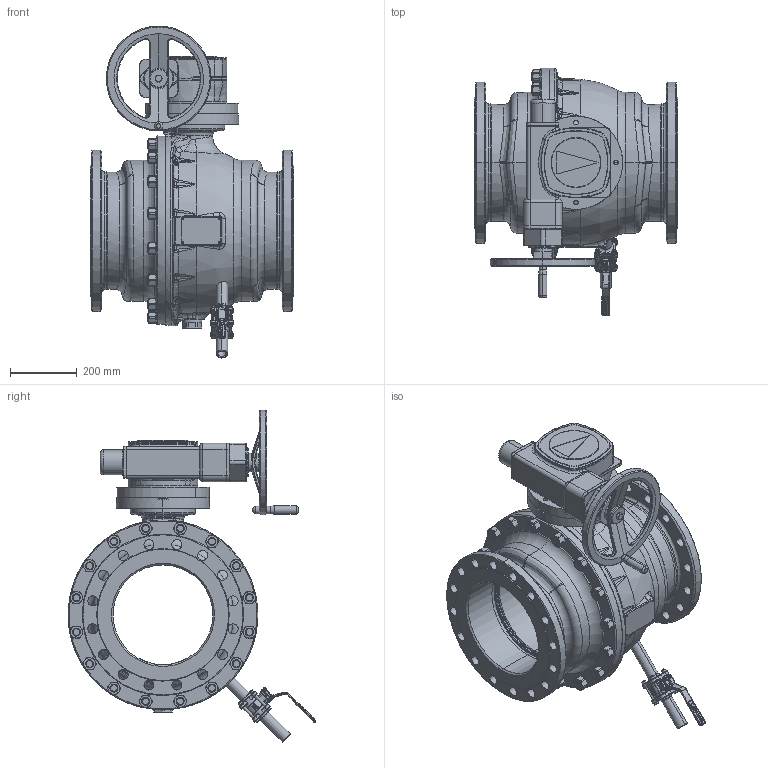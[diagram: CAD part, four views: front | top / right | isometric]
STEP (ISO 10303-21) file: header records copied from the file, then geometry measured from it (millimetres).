
FILE_DESCRIPTION((''),'2;1');
FILE_NAME('300_ASM','2017-01-16T',('schwaba'),('RAND'),'PRO/ENGINEER BY PARAMETRIC TECHNOLOGY CORPORATION, 2016100','PRO/ENGINEER BY PARAMETRIC TECHNOLOGY CORPORATION, 2016100','');
FILE_SCHEMA(('CONFIG_CONTROL_DESIGN'));
Products named in the file (3): KHI_300_PN25_FR_WE_ENTL_O_IT; GS100_F16_AHR315_ZWPL_DN300; 300_ASM
Assembly tree (2 placements, depth 2):
  300_ASM
    KHI_300_PN25_FR_WE_ENTL_O_IT
    GS100_F16_AHR315_ZWPL_DN300
Bounding box: 610 x 744.57 x 997.59 mm (x, y, z)
Volume: 48595347.1 mm3; surface area: 5020379.4 mm2
Topology: 3 solids, 11 shells, 4507 faces, 11196 edges, 6830 vertices
Faces by surface type: plane 1758, cylinder 1001, bspline 612, cone 591, torus 476, sphere 69
Entity records: 274488 total; most frequent: CARTESIAN_POINT 171462, ORIENTED_EDGE 22278, DIRECTION 20565, EDGE_CURVE 11139, AXIS2_PLACEMENT_3D 7733, VERTEX_POINT 6830, VECTOR 5099, LINE 5099
